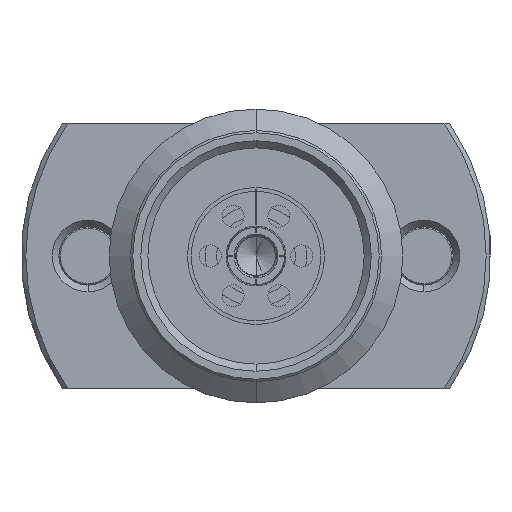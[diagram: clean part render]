
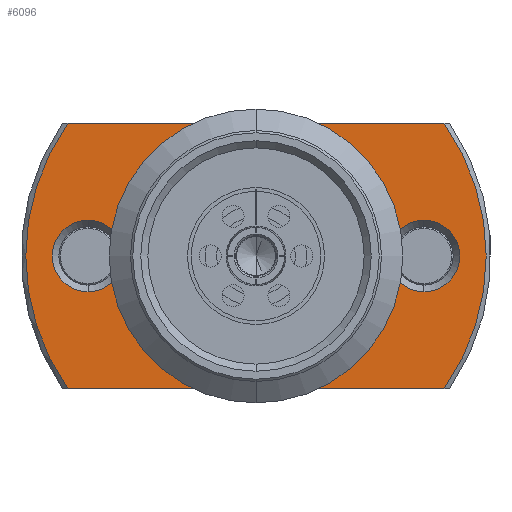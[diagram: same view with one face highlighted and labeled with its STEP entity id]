
A CAD part, left-side view. The second image highlights one B-rep face of the part: STEP entity #6096.
In plain terms, the highlighted planar face has unit normal (-1, 0, 0).
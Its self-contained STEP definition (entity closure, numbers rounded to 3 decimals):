
#518 = DIRECTION ( 'NONE',  ( 0., 0., 1. ) ) ;
#575 = CARTESIAN_POINT ( 'NONE',  ( -1.65, 0., 0. ) ) ;
#708 = CARTESIAN_POINT ( 'NONE',  ( -1.65, 3.58, 0. ) ) ;
#927 = CIRCLE ( 'NONE', #7617, 2.675 ) ;
#1133 = DIRECTION ( 'NONE',  ( -1., 0., 0. ) ) ;
#1139 = LINE ( 'NONE', #2405, #4995 ) ;
#1241 = ORIENTED_EDGE ( 'NONE', *, *, #2053, .T. ) ;
#1274 = EDGE_CURVE ( 'NONE', #6430, #2812, #3682, .T. ) ;
#1327 = DIRECTION ( 'NONE',  ( 0., 0., 1. ) ) ;
#1519 = EDGE_LOOP ( 'NONE', ( #5681, #1241 ) ) ;
#1544 = EDGE_CURVE ( 'NONE', #5163, #2787, #3087, .T. ) ;
#1557 = CIRCLE ( 'NONE', #9922, 2.675 ) ;
#1571 = CARTESIAN_POINT ( 'NONE',  ( -1.65, -4.006, -2.83 ) ) ;
#1612 = CARTESIAN_POINT ( 'NONE',  ( -1.65, 3.58, 0. ) ) ;
#1655 = CARTESIAN_POINT ( 'NONE',  ( -1.65, 0., -2.675 ) ) ;
#1721 = CARTESIAN_POINT ( 'NONE',  ( -1.65, 0., 2.675 ) ) ;
#1807 = EDGE_CURVE ( 'NONE', #5484, #4616, #927, .T. ) ;
#1860 = ORIENTED_EDGE ( 'NONE', *, *, #1274, .T. ) ;
#2053 = EDGE_CURVE ( 'NONE', #2787, #5163, #9333, .T. ) ;
#2060 = EDGE_CURVE ( 'NONE', #3405, #6430, #1139, .T. ) ;
#2199 = EDGE_CURVE ( 'NONE', #9730, #6032, #4253, .T. ) ;
#2247 = DIRECTION ( 'NONE',  ( 0., 0., 1. ) ) ;
#2405 = CARTESIAN_POINT ( 'NONE',  ( -1.65, 5.5, -2.83 ) ) ;
#2527 = CIRCLE ( 'NONE', #8004, 4.905 ) ;
#2537 = ORIENTED_EDGE ( 'NONE', *, *, #1807, .F. ) ;
#2563 = ORIENTED_EDGE ( 'NONE', *, *, #2199, .F. ) ;
#2581 = AXIS2_PLACEMENT_3D ( 'NONE', #8062, #3435, #8848 ) ;
#2787 = VERTEX_POINT ( 'NONE', #7402 ) ;
#2812 = VERTEX_POINT ( 'NONE', #3537 ) ;
#2945 = ORIENTED_EDGE ( 'NONE', *, *, #3880, .F. ) ;
#2948 = DIRECTION ( 'NONE',  ( 0., -1., 0. ) ) ;
#2974 = EDGE_CURVE ( 'NONE', #6628, #2812, #3879, .T. ) ;
#2981 = CARTESIAN_POINT ( 'NONE',  ( -1.65, 5.5, 2.83 ) ) ;
#3087 = CIRCLE ( 'NONE', #9307, 0.762 ) ;
#3405 = VERTEX_POINT ( 'NONE', #4923 ) ;
#3435 = DIRECTION ( 'NONE',  ( -1., 0., 0. ) ) ;
#3438 = DIRECTION ( 'NONE',  ( 0., 0., 1. ) ) ;
#3439 = AXIS2_PLACEMENT_3D ( 'NONE', #9708, #5113, #518 ) ;
#3476 = ORIENTED_EDGE ( 'NONE', *, *, #4271, .T. ) ;
#3537 = CARTESIAN_POINT ( 'NONE',  ( -1.65, -4.006, 2.83 ) ) ;
#3682 = CIRCLE ( 'NONE', #7427, 4.905 ) ;
#3761 = EDGE_LOOP ( 'NONE', ( #1860, #9004, #3476, #6619 ) ) ;
#3787 = ORIENTED_EDGE ( 'NONE', *, *, #9253, .F. ) ;
#3879 = LINE ( 'NONE', #2981, #5940 ) ;
#3880 = EDGE_CURVE ( 'NONE', #4616, #5484, #1557, .T. ) ;
#4048 = FACE_BOUND ( 'NONE', #8893, .T. ) ;
#4080 = DIRECTION ( 'NONE',  ( -1., 0., 0. ) ) ;
#4253 = CIRCLE ( 'NONE', #2581, 0.762 ) ;
#4271 = EDGE_CURVE ( 'NONE', #6628, #3405, #2527, .T. ) ;
#4283 = CARTESIAN_POINT ( 'NONE',  ( -1.65, 0., 0. ) ) ;
#4616 = VERTEX_POINT ( 'NONE', #1721 ) ;
#4794 = DIRECTION ( 'NONE',  ( 0., -1., 0. ) ) ;
#4872 = CARTESIAN_POINT ( 'NONE',  ( -1.65, -3.58, -0.762 ) ) ;
#4923 = CARTESIAN_POINT ( 'NONE',  ( -1.65, 4.006, -2.83 ) ) ;
#4995 = VECTOR ( 'NONE', #4794, 1000. ) ;
#5066 = DIRECTION ( 'NONE',  ( 0., 0., 1. ) ) ;
#5113 = DIRECTION ( 'NONE',  ( -1., 0., 0. ) ) ;
#5163 = VERTEX_POINT ( 'NONE', #7715 ) ;
#5240 = CARTESIAN_POINT ( 'NONE',  ( -1.65, 4.006, 2.83 ) ) ;
#5357 = CARTESIAN_POINT ( 'NONE',  ( -1.65, -3.58, 0.762 ) ) ;
#5484 = VERTEX_POINT ( 'NONE', #1655 ) ;
#5610 = EDGE_LOOP ( 'NONE', ( #2563, #3787 ) ) ;
#5681 = ORIENTED_EDGE ( 'NONE', *, *, #1544, .T. ) ;
#5940 = VECTOR ( 'NONE', #2948, 1000. ) ;
#6002 = FACE_BOUND ( 'NONE', #1519, .T. ) ;
#6032 = VERTEX_POINT ( 'NONE', #4872 ) ;
#6096 = ADVANCED_FACE ( 'NONE', ( #6002, #9843, #4048, #7813 ), #6521, .T. ) ;
#6243 = CARTESIAN_POINT ( 'NONE',  ( -1.65, 0., 0. ) ) ;
#6430 = VERTEX_POINT ( 'NONE', #1571 ) ;
#6521 = PLANE ( 'NONE',  #6886 ) ;
#6619 = ORIENTED_EDGE ( 'NONE', *, *, #2060, .T. ) ;
#6628 = VERTEX_POINT ( 'NONE', #5240 ) ;
#6725 = DIRECTION ( 'NONE',  ( -1., 0., 0. ) ) ;
#6867 = DIRECTION ( 'NONE',  ( 1., 0., 0. ) ) ;
#6886 = AXIS2_PLACEMENT_3D ( 'NONE', #7287, #1133, #3438 ) ;
#7047 = DIRECTION ( 'NONE',  ( 0., 0., 1. ) ) ;
#7287 = CARTESIAN_POINT ( 'NONE',  ( -1.65, -2.675, 0. ) ) ;
#7402 = CARTESIAN_POINT ( 'NONE',  ( -1.65, 3.58, -0.762 ) ) ;
#7427 = AXIS2_PLACEMENT_3D ( 'NONE', #6243, #9340, #9215 ) ;
#7617 = AXIS2_PLACEMENT_3D ( 'NONE', #575, #6725, #1327 ) ;
#7715 = CARTESIAN_POINT ( 'NONE',  ( -1.65, 3.58, 0.762 ) ) ;
#7813 = FACE_OUTER_BOUND ( 'NONE', #3761, .T. ) ;
#7941 = AXIS2_PLACEMENT_3D ( 'NONE', #1612, #8636, #7047 ) ;
#8004 = AXIS2_PLACEMENT_3D ( 'NONE', #8703, #4080, #9478 ) ;
#8062 = CARTESIAN_POINT ( 'NONE',  ( -1.65, -3.58, 0. ) ) ;
#8636 = DIRECTION ( 'NONE',  ( 1., 0., 0. ) ) ;
#8703 = CARTESIAN_POINT ( 'NONE',  ( -1.65, 0., 0. ) ) ;
#8848 = DIRECTION ( 'NONE',  ( 0., 0., 1. ) ) ;
#8893 = EDGE_LOOP ( 'NONE', ( #2945, #2537 ) ) ;
#9004 = ORIENTED_EDGE ( 'NONE', *, *, #2974, .F. ) ;
#9215 = DIRECTION ( 'NONE',  ( 0., 0., 1. ) ) ;
#9253 = EDGE_CURVE ( 'NONE', #6032, #9730, #9553, .T. ) ;
#9307 = AXIS2_PLACEMENT_3D ( 'NONE', #708, #6867, #2247 ) ;
#9333 = CIRCLE ( 'NONE', #7941, 0.762 ) ;
#9340 = DIRECTION ( 'NONE',  ( -1., 0., 0. ) ) ;
#9478 = DIRECTION ( 'NONE',  ( 0., 0., 1. ) ) ;
#9553 = CIRCLE ( 'NONE', #3439, 0.762 ) ;
#9670 = DIRECTION ( 'NONE',  ( -1., 0., 0. ) ) ;
#9708 = CARTESIAN_POINT ( 'NONE',  ( -1.65, -3.58, 0. ) ) ;
#9730 = VERTEX_POINT ( 'NONE', #5357 ) ;
#9843 = FACE_BOUND ( 'NONE', #5610, .T. ) ;
#9922 = AXIS2_PLACEMENT_3D ( 'NONE', #4283, #9670, #5066 ) ;
